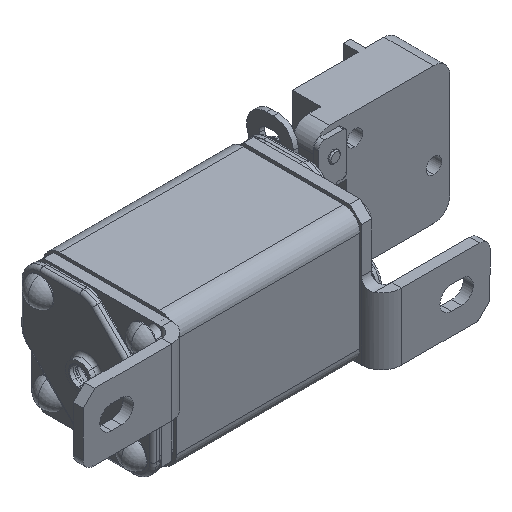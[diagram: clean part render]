
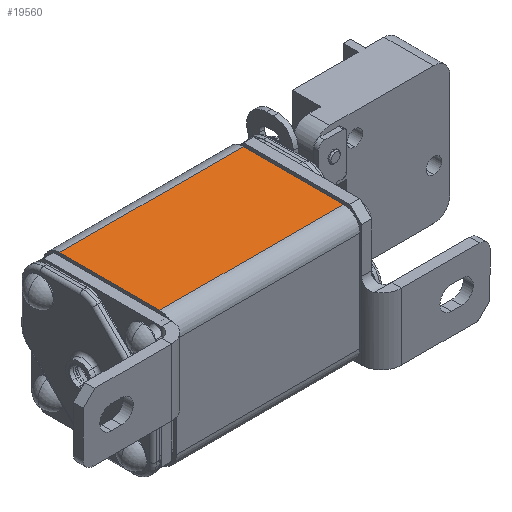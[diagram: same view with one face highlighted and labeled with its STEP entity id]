
A CAD part, isometric view. The second image highlights one B-rep face of the part: STEP entity #19560.
In plain terms, the highlighted planar face has unit normal (0, 0, 1).
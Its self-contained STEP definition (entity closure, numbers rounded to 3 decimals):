
#1418 = CARTESIAN_POINT ( 'NONE',  ( 55., 15., 20. ) ) ;
#2235 = CARTESIAN_POINT ( 'NONE',  ( 0., -20., 20. ) ) ;
#2905 = EDGE_LOOP ( 'NONE', ( #16080, #10825, #13940, #18724 ) ) ;
#3328 = CARTESIAN_POINT ( 'NONE',  ( 0., -15., 20. ) ) ;
#3735 = VECTOR ( 'NONE', #11779, 1000. ) ;
#4953 = VECTOR ( 'NONE', #7099, 1000. ) ;
#5881 = VERTEX_POINT ( 'NONE', #28357 ) ;
#6222 = LINE ( 'NONE', #1418, #23893 ) ;
#7099 = DIRECTION ( 'NONE',  ( 0., 1., 0. ) ) ;
#9091 = CARTESIAN_POINT ( 'NONE',  ( 55., 15., 20. ) ) ;
#10667 = PLANE ( 'NONE',  #11706 ) ;
#10825 = ORIENTED_EDGE ( 'NONE', *, *, #29569, .T. ) ;
#11706 = AXIS2_PLACEMENT_3D ( 'NONE', #24579, #29540, #29333 ) ;
#11779 = DIRECTION ( 'NONE',  ( 0., 1., 0. ) ) ;
#12380 = LINE ( 'NONE', #15030, #20825 ) ;
#12743 = EDGE_CURVE ( 'NONE', #24254, #5881, #29189, .T. ) ;
#13940 = ORIENTED_EDGE ( 'NONE', *, *, #17121, .T. ) ;
#15030 = CARTESIAN_POINT ( 'NONE',  ( 55., -15., 20. ) ) ;
#16080 = ORIENTED_EDGE ( 'NONE', *, *, #12743, .F. ) ;
#16363 = LINE ( 'NONE', #18257, #4953 ) ;
#17121 = EDGE_CURVE ( 'NONE', #28221, #30456, #16363, .T. ) ;
#18257 = CARTESIAN_POINT ( 'NONE',  ( 55., -20., 20. ) ) ;
#18724 = ORIENTED_EDGE ( 'NONE', *, *, #27369, .T. ) ;
#19560 = ADVANCED_FACE ( 'NONE', ( #21044 ), #10667, .T. ) ;
#20284 = DIRECTION ( 'NONE',  ( -1., 0., 0. ) ) ;
#20825 = VECTOR ( 'NONE', #22416, 1000. ) ;
#21044 = FACE_OUTER_BOUND ( 'NONE', #2905, .T. ) ;
#21437 = CARTESIAN_POINT ( 'NONE',  ( 55., -15., 20. ) ) ;
#22416 = DIRECTION ( 'NONE',  ( 1., 0., 0. ) ) ;
#23893 = VECTOR ( 'NONE', #20284, 1000. ) ;
#24254 = VERTEX_POINT ( 'NONE', #3328 ) ;
#24579 = CARTESIAN_POINT ( 'NONE',  ( 55., -20., 20. ) ) ;
#27369 = EDGE_CURVE ( 'NONE', #30456, #5881, #6222, .T. ) ;
#28221 = VERTEX_POINT ( 'NONE', #21437 ) ;
#28357 = CARTESIAN_POINT ( 'NONE',  ( 0., 15., 20. ) ) ;
#29189 = LINE ( 'NONE', #2235, #3735 ) ;
#29333 = DIRECTION ( 'NONE',  ( 1., 0., 0. ) ) ;
#29540 = DIRECTION ( 'NONE',  ( 0., 0., 1. ) ) ;
#29569 = EDGE_CURVE ( 'NONE', #24254, #28221, #12380, .T. ) ;
#30456 = VERTEX_POINT ( 'NONE', #9091 ) ;
